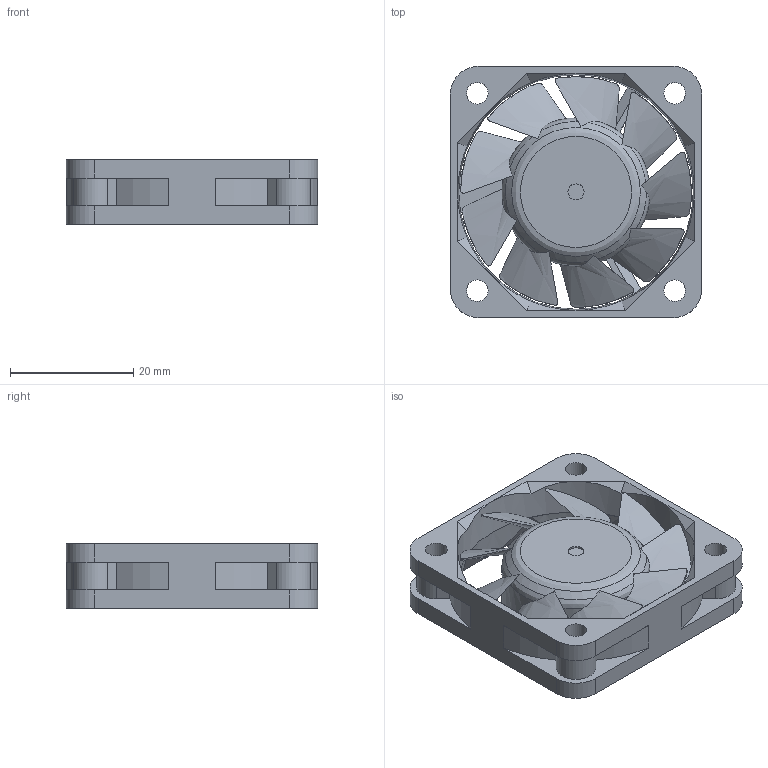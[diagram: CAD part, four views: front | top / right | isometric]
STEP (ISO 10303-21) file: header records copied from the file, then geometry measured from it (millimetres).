
FILE_DESCRIPTION(('STEP AP203'),'2;1');
FILE_NAME('4010_ASSY.stp','2015-06-04T21:10:22',(''),(''),'2013.1.116','THINKDESIGN','');
FILE_SCHEMA(('CONFIG_CONTROL_DESIGN'));
Length unit declared in the file: millimetre
Bounding box: 40.7 x 40.7 x 10.5 mm (x, y, z)
Volume: 8890.2 mm3; surface area: 7728.7 mm2
Topology: 1 solids, 1 shells, 153 faces, 452 edges, 301 vertices
Faces by surface type: plane 66, cylinder 54, bspline 33
Full cylindrical faces by diameter (mm): 2.6 x1, 3.5 x4, 24 x1
Entity records: 6101 total; most frequent: CARTESIAN_POINT 2178, ORIENTED_EDGE 904, DIRECTION 655, EDGE_CURVE 452, VERTEX_POINT 301, AXIS2_PLACEMENT_3D 222, VECTOR 211, LINE 211
